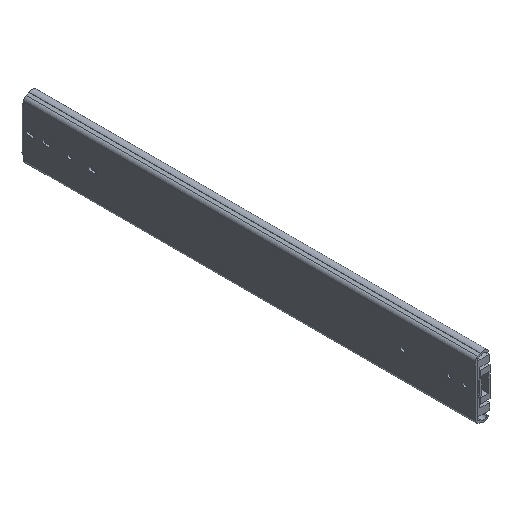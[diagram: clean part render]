
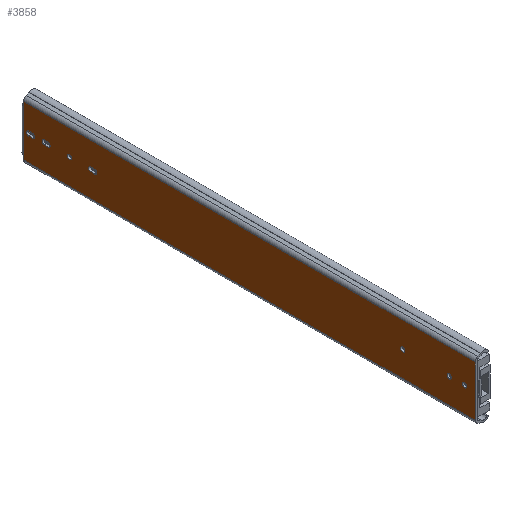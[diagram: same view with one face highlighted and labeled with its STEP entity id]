
A CAD part, isometric view. The second image highlights one B-rep face of the part: STEP entity #3858.
In plain terms, the highlighted planar face has unit normal (-1, 0, 0).
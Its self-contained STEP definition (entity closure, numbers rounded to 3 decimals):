
#343=LINE('',#6565,#726);
#350=LINE('',#6594,#733);
#351=LINE('',#6599,#734);
#366=LINE('',#6646,#749);
#373=LINE('',#6671,#756);
#383=LINE('',#6700,#766);
#386=LINE('',#6722,#769);
#390=LINE('',#6734,#773);
#394=LINE('',#6750,#777);
#401=LINE('',#6769,#784);
#404=LINE('',#6778,#787);
#410=LINE('',#6809,#793);
#416=LINE('',#6825,#799);
#417=LINE('',#6827,#800);
#726=VECTOR('',#5431,1000.);
#733=VECTOR('',#5460,1000.);
#734=VECTOR('',#5465,1000.);
#749=VECTOR('',#5510,1000.);
#756=VECTOR('',#5535,1000.);
#766=VECTOR('',#5567,1000.);
#769=VECTOR('',#5590,1000.);
#773=VECTOR('',#5602,1000.);
#777=VECTOR('',#5620,1000.);
#784=VECTOR('',#5635,1000.);
#787=VECTOR('',#5646,1000.);
#793=VECTOR('',#5672,1000.);
#799=VECTOR('',#5692,1000.);
#800=VECTOR('',#5695,1000.);
#907=PLANE('',#4605);
#1961=ORIENTED_EDGE('',*,*,#2562,.F.);
#1962=ORIENTED_EDGE('',*,*,#2521,.T.);
#1963=ORIENTED_EDGE('',*,*,#2525,.F.);
#1964=ORIENTED_EDGE('',*,*,#2560,.T.);
#1965=ORIENTED_EDGE('',*,*,#2539,.T.);
#1966=ORIENTED_EDGE('',*,*,#2537,.T.);
#1967=ORIENTED_EDGE('',*,*,#2534,.T.);
#1968=ORIENTED_EDGE('',*,*,#2531,.T.);
#1969=ORIENTED_EDGE('',*,*,#2514,.F.);
#1970=ORIENTED_EDGE('',*,*,#2511,.F.);
#1971=ORIENTED_EDGE('',*,*,#2520,.F.);
#1972=ORIENTED_EDGE('',*,*,#2517,.F.);
#1973=ORIENTED_EDGE('',*,*,#2507,.F.);
#1974=ORIENTED_EDGE('',*,*,#2505,.F.);
#1975=ORIENTED_EDGE('',*,*,#2503,.F.);
#1976=ORIENTED_EDGE('',*,*,#2546,.F.);
#1977=ORIENTED_EDGE('',*,*,#2563,.T.);
#1978=ORIENTED_EDGE('',*,*,#2487,.F.);
#1979=ORIENTED_EDGE('',*,*,#2552,.T.);
#1980=ORIENTED_EDGE('',*,*,#2435,.T.);
#1981=ORIENTED_EDGE('',*,*,#2502,.T.);
#1982=ORIENTED_EDGE('',*,*,#2449,.F.);
#1983=ORIENTED_EDGE('',*,*,#2474,.F.);
#1984=ORIENTED_EDGE('',*,*,#2451,.T.);
#2435=EDGE_CURVE('',#2857,#2856,#343,.T.);
#2449=EDGE_CURVE('',#2867,#2866,#350,.T.);
#2451=EDGE_CURVE('',#2870,#2869,#351,.T.);
#2474=EDGE_CURVE('',#2870,#2867,#366,.T.);
#2487=EDGE_CURVE('',#2895,#2896,#373,.T.);
#2502=EDGE_CURVE('',#2856,#2866,#383,.T.);
#2503=EDGE_CURVE('',#2904,#2904,#3089,.T.);
#2505=EDGE_CURVE('',#2906,#2906,#3091,.T.);
#2507=EDGE_CURVE('',#2908,#2908,#3093,.T.);
#2511=EDGE_CURVE('',#2912,#2913,#386,.T.);
#2514=EDGE_CURVE('',#2913,#2915,#3096,.T.);
#2517=EDGE_CURVE('',#2915,#2917,#390,.T.);
#2520=EDGE_CURVE('',#2917,#2912,#3098,.T.);
#2521=EDGE_CURVE('',#2918,#2919,#3099,.T.);
#2525=EDGE_CURVE('',#2922,#2919,#394,.T.);
#2531=EDGE_CURVE('',#2925,#2927,#3102,.T.);
#2534=EDGE_CURVE('',#2929,#2925,#401,.T.);
#2537=EDGE_CURVE('',#2931,#2929,#3104,.T.);
#2539=EDGE_CURVE('',#2927,#2931,#404,.T.);
#2546=EDGE_CURVE('',#2938,#2938,#3107,.T.);
#2552=EDGE_CURVE('',#2895,#2857,#410,.T.);
#2560=EDGE_CURVE('',#2922,#2945,#3110,.T.);
#2562=EDGE_CURVE('',#2918,#2945,#416,.T.);
#2563=EDGE_CURVE('',#2869,#2896,#417,.T.);
#2856=VERTEX_POINT('',#6564);
#2857=VERTEX_POINT('',#6566);
#2866=VERTEX_POINT('',#6591);
#2867=VERTEX_POINT('',#6593);
#2869=VERTEX_POINT('',#6598);
#2870=VERTEX_POINT('',#6600);
#2895=VERTEX_POINT('',#6670);
#2896=VERTEX_POINT('',#6672);
#2904=VERTEX_POINT('',#6703);
#2906=VERTEX_POINT('',#6708);
#2908=VERTEX_POINT('',#6713);
#2912=VERTEX_POINT('',#6721);
#2913=VERTEX_POINT('',#6723);
#2915=VERTEX_POINT('',#6729);
#2917=VERTEX_POINT('',#6735);
#2918=VERTEX_POINT('',#6742);
#2919=VERTEX_POINT('',#6743);
#2922=VERTEX_POINT('',#6751);
#2925=VERTEX_POINT('',#6758);
#2927=VERTEX_POINT('',#6762);
#2929=VERTEX_POINT('',#6767);
#2931=VERTEX_POINT('',#6773);
#2938=VERTEX_POINT('',#6794);
#2945=VERTEX_POINT('',#6822);
#3089=CIRCLE('',#4559,2.6);
#3091=CIRCLE('',#4562,2.6);
#3093=CIRCLE('',#4565,2.6);
#3096=CIRCLE('',#4570,2.6);
#3098=CIRCLE('',#4574,2.6);
#3099=CIRCLE('',#4576,2.6);
#3102=CIRCLE('',#4581,2.619);
#3104=CIRCLE('',#4585,2.619);
#3107=CIRCLE('',#4591,2.6);
#3110=CIRCLE('',#4602,2.6);
#3338=EDGE_LOOP('',(#1961,#1962,#1963,#1964));
#3339=EDGE_LOOP('',(#1965,#1966,#1967,#1968));
#3340=EDGE_LOOP('',(#1969,#1970,#1971,#1972));
#3341=EDGE_LOOP('',(#1973));
#3342=EDGE_LOOP('',(#1974));
#3343=EDGE_LOOP('',(#1975));
#3344=EDGE_LOOP('',(#1976));
#3345=EDGE_LOOP('',(#1977,#1978,#1979,#1980,#1981,#1982,#1983,#1984));
#3579=FACE_BOUND('',#3338,.T.);
#3580=FACE_BOUND('',#3339,.T.);
#3581=FACE_BOUND('',#3340,.T.);
#3582=FACE_BOUND('',#3341,.T.);
#3583=FACE_BOUND('',#3342,.T.);
#3584=FACE_BOUND('',#3343,.T.);
#3585=FACE_BOUND('',#3344,.T.);
#3586=FACE_BOUND('',#3345,.T.);
#3858=ADVANCED_FACE('',(#3579,#3580,#3581,#3582,#3583,#3584,#3585,#3586),
#907,.F.);
#4559=AXIS2_PLACEMENT_3D('',#6702,#5570,#5571);
#4562=AXIS2_PLACEMENT_3D('',#6707,#5576,#5577);
#4565=AXIS2_PLACEMENT_3D('',#6712,#5582,#5583);
#4570=AXIS2_PLACEMENT_3D('',#6728,#5596,#5597);
#4574=AXIS2_PLACEMENT_3D('',#6739,#5608,#5609);
#4576=AXIS2_PLACEMENT_3D('',#6741,#5612,#5613);
#4581=AXIS2_PLACEMENT_3D('',#6763,#5629,#5630);
#4585=AXIS2_PLACEMENT_3D('',#6775,#5641,#5642);
#4591=AXIS2_PLACEMENT_3D('',#6793,#5659,#5660);
#4602=AXIS2_PLACEMENT_3D('',#6821,#5687,#5688);
#4605=AXIS2_PLACEMENT_3D('',#6829,#5697,#5698);
#5431=DIRECTION('',(0.,-1.,0.));
#5460=DIRECTION('',(0.,1.,0.));
#5465=DIRECTION('',(0.,1.,0.));
#5510=DIRECTION('',(0.,0.,-1.));
#5535=DIRECTION('',(0.,-1.,0.));
#5567=DIRECTION('',(0.,0.,-1.));
#5570=DIRECTION('',(-1.,0.,0.));
#5571=DIRECTION('',(0.,1.,0.));
#5576=DIRECTION('',(-1.,0.,0.));
#5577=DIRECTION('',(0.,1.,0.));
#5582=DIRECTION('',(-1.,0.,0.));
#5583=DIRECTION('',(0.,1.,0.));
#5590=DIRECTION('',(0.,-1.,0.));
#5596=DIRECTION('',(-1.,0.,0.));
#5597=DIRECTION('',(0.,1.,0.));
#5602=DIRECTION('',(0.,1.,0.));
#5608=DIRECTION('',(-1.,0.,0.));
#5609=DIRECTION('',(0.,-1.,0.));
#5612=DIRECTION('',(1.,0.,0.));
#5613=DIRECTION('',(0.,0.,-1.));
#5620=DIRECTION('',(0.,1.,0.));
#5629=DIRECTION('',(1.,0.,0.));
#5630=DIRECTION('',(0.,0.,-1.));
#5635=DIRECTION('',(0.,1.,0.));
#5641=DIRECTION('',(1.,0.,0.));
#5642=DIRECTION('',(0.,0.,-1.));
#5646=DIRECTION('',(0.,-1.,0.));
#5659=DIRECTION('',(-1.,0.,0.));
#5660=DIRECTION('',(0.,1.,0.));
#5672=DIRECTION('',(0.,0.,-1.));
#5687=DIRECTION('',(1.,0.,0.));
#5688=DIRECTION('',(0.,0.,-1.));
#5692=DIRECTION('',(0.,-1.,0.));
#5695=DIRECTION('',(0.,0.,-1.));
#5697=DIRECTION('',(1.,0.,0.));
#5698=DIRECTION('',(0.,0.,-1.));
#6564=CARTESIAN_POINT('',(0.,554.8,-26.15));
#6565=CARTESIAN_POINT('',(0.,555.3,-26.15));
#6566=CARTESIAN_POINT('',(0.,555.3,-26.15));
#6591=CARTESIAN_POINT('',(0.,554.8,-31.142));
#6593=CARTESIAN_POINT('',(0.,0.,-31.142));
#6594=CARTESIAN_POINT('',(0.,0.,-31.142));
#6598=CARTESIAN_POINT('',(0.,554.8,31.132));
#6599=CARTESIAN_POINT('',(0.,0.,31.132));
#6600=CARTESIAN_POINT('',(0.,0.,31.132));
#6646=CARTESIAN_POINT('',(0.,0.,31.132));
#6670=CARTESIAN_POINT('',(0.,555.3,26.15));
#6671=CARTESIAN_POINT('',(0.,555.3,26.15));
#6672=CARTESIAN_POINT('',(0.,554.8,26.15));
#6700=CARTESIAN_POINT('',(0.,554.8,31.132));
#6702=CARTESIAN_POINT('',(0.,31.75,-0.006));
#6703=CARTESIAN_POINT('',(0.,34.35,-0.006));
#6707=CARTESIAN_POINT('',(0.,88.9,-0.006));
#6708=CARTESIAN_POINT('',(0.,91.5,-0.006));
#6712=CARTESIAN_POINT('',(0.,498.5,-0.006));
#6713=CARTESIAN_POINT('',(0.,501.1,-0.006));
#6721=CARTESIAN_POINT('',(0.,472.2,-2.605));
#6722=CARTESIAN_POINT('',(0.,472.2,-2.605));
#6723=CARTESIAN_POINT('',(0.,467.6,-2.605));
#6728=CARTESIAN_POINT('',(0.,467.6,-0.005));
#6729=CARTESIAN_POINT('',(0.,467.6,2.595));
#6734=CARTESIAN_POINT('',(0.,472.2,2.595));
#6735=CARTESIAN_POINT('',(0.,472.2,2.595));
#6739=CARTESIAN_POINT('',(0.,472.2,-0.005));
#6741=CARTESIAN_POINT('',(0.,548.4,-0.006));
#6742=CARTESIAN_POINT('',(0.,548.4,-2.606));
#6743=CARTESIAN_POINT('',(0.,548.4,2.594));
#6750=CARTESIAN_POINT('',(0.,0.,2.594));
#6751=CARTESIAN_POINT('',(0.,543.8,2.594));
#6758=CARTESIAN_POINT('',(0.,529.699,-2.606));
#6762=CARTESIAN_POINT('',(0.,529.699,2.594));
#6763=CARTESIAN_POINT('',(0.,529.381,-0.006));
#6767=CARTESIAN_POINT('',(0.,524.501,-2.606));
#6769=CARTESIAN_POINT('',(0.,0.,-2.606));
#6773=CARTESIAN_POINT('',(0.,524.501,2.594));
#6775=CARTESIAN_POINT('',(0.,524.819,-0.006));
#6778=CARTESIAN_POINT('',(0.,0.,2.594));
#6793=CARTESIAN_POINT('',(0.,12.7,-0.006));
#6794=CARTESIAN_POINT('',(0.,15.3,-0.006));
#6809=CARTESIAN_POINT('',(0.,555.3,26.15));
#6821=CARTESIAN_POINT('',(0.,543.8,-0.006));
#6822=CARTESIAN_POINT('',(0.,543.8,-2.606));
#6825=CARTESIAN_POINT('',(0.,0.,-2.606));
#6827=CARTESIAN_POINT('',(0.,554.8,31.132));
#6829=CARTESIAN_POINT('',(0.,0.,31.132));
